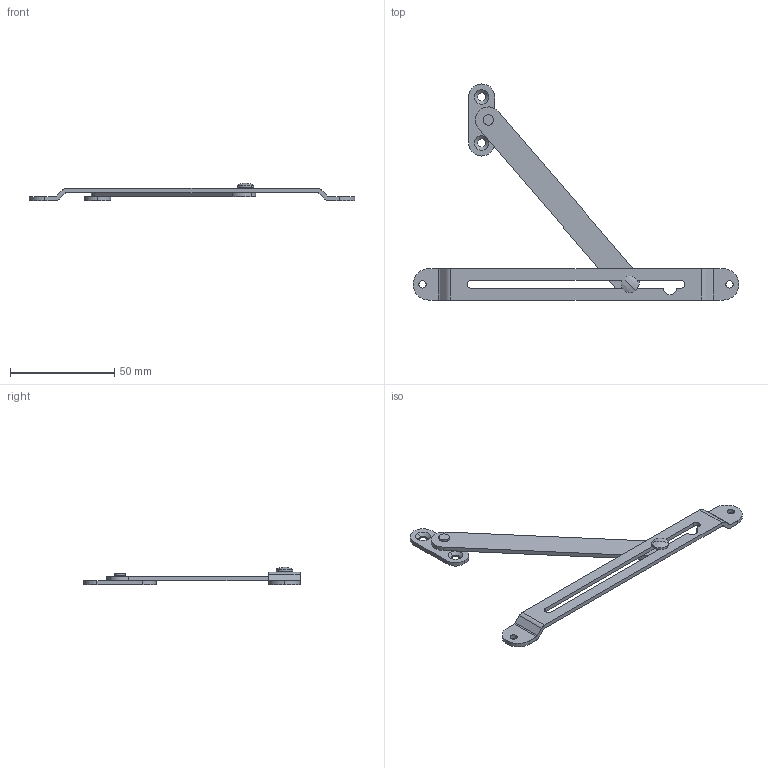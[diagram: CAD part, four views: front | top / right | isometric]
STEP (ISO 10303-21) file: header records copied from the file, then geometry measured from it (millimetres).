
FILE_DESCRIPTION (( 'STEP AP203' ), '1' );
FILE_NAME ('EDS-52.STEP', '2013-07-07T05:33:38', ( 'SDS' ), ( 'SDS' ), 'SwSTEP 2.0', 'SolidWorks 2002296', '' );
FILE_SCHEMA (( 'CONFIG_CONTROL_DESIGN' ));
Length unit declared in the file: millimetre
Products named in the file (4): EDS-52; EDS-52-1_蹬怮椔; EDS-52-2_蹬怮椔; EDS-52-3_蹬怮椔
Assembly tree (3 placements, depth 2):
  EDS-52
    EDS-52-1_蹬怮椔
    EDS-52-3_蹬怮椔
    EDS-52-2_蹬怮椔
Bounding box: 156 x 103.46 x 8.5 mm (x, y, z)
Volume: 7384.1 mm3; surface area: 9346.6 mm2
Topology: 3 solids, 3 shells, 75 faces, 190 edges, 125 vertices
Faces by surface type: cylinder 43, plane 26, cone 4, sphere 2
Entity records: 2734 total; most frequent: DIRECTION 444, CARTESIAN_POINT 396, ORIENTED_EDGE 380, EDGE_CURVE 190, AXIS2_PLACEMENT_3D 173, VERTEX_POINT 125, LINE 98, VECTOR 98
